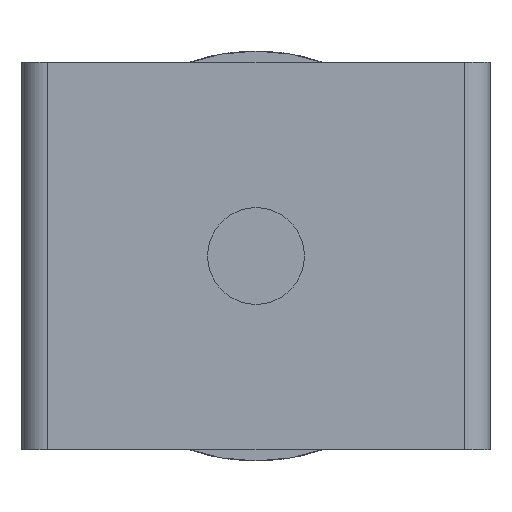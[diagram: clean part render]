
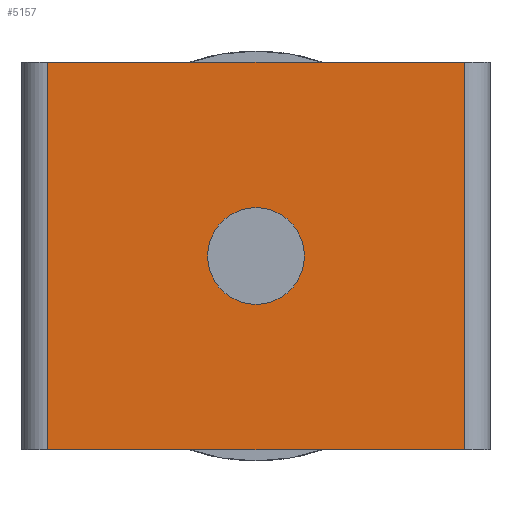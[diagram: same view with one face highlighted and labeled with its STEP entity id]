
A CAD part, front view. The second image highlights one B-rep face of the part: STEP entity #5157.
In plain terms, the highlighted planar face has unit normal (0, -1, 0).
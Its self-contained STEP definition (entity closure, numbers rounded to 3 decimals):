
#109 = EDGE_LOOP ( 'NONE', ( #2872, #2233, #1864, #2878 ) ) ;
#177 = AXIS2_PLACEMENT_3D ( 'NONE', #500, #3514, #933 ) ;
#316 = VERTEX_POINT ( 'NONE', #338 ) ;
#338 = CARTESIAN_POINT ( 'NONE',  ( 12.9, -37.5, -24. ) ) ;
#465 = CIRCLE ( 'NONE', #2472, 3. ) ;
#500 = CARTESIAN_POINT ( 'NONE',  ( 0., -37.5, -12. ) ) ;
#524 = VERTEX_POINT ( 'NONE', #2293 ) ;
#558 = CARTESIAN_POINT ( 'NONE',  ( 0., -37.5, -12. ) ) ;
#644 = FACE_BOUND ( 'NONE', #1712, .T. ) ;
#823 = DIRECTION ( 'NONE',  ( 0., 1., 0. ) ) ;
#871 = CARTESIAN_POINT ( 'NONE',  ( 12.9, -37.5, -12. ) ) ;
#883 = VERTEX_POINT ( 'NONE', #2236 ) ;
#933 = DIRECTION ( 'NONE',  ( 0., 0., 1. ) ) ;
#991 = DIRECTION ( 'NONE',  ( 0., 0., 1. ) ) ;
#1656 = CARTESIAN_POINT ( 'NONE',  ( 0., -37.5, -9. ) ) ;
#1678 = PLANE ( 'NONE',  #5049 ) ;
#1712 = EDGE_LOOP ( 'NONE', ( #5521, #4143 ) ) ;
#1864 = ORIENTED_EDGE ( 'NONE', *, *, #3978, .T. ) ;
#2080 = VERTEX_POINT ( 'NONE', #5199 ) ;
#2085 = EDGE_CURVE ( 'NONE', #2080, #4909, #4158, .T. ) ;
#2174 = EDGE_CURVE ( 'NONE', #4909, #2080, #465, .T. ) ;
#2224 = DIRECTION ( 'NONE',  ( -1., 0., 0. ) ) ;
#2233 = ORIENTED_EDGE ( 'NONE', *, *, #4381, .T. ) ;
#2236 = CARTESIAN_POINT ( 'NONE',  ( -12.9, -37.5, 0. ) ) ;
#2258 = VECTOR ( 'NONE', #2224, 1000. ) ;
#2293 = CARTESIAN_POINT ( 'NONE',  ( 12.9, -37.5, 0. ) ) ;
#2472 = AXIS2_PLACEMENT_3D ( 'NONE', #558, #3564, #991 ) ;
#2516 = VECTOR ( 'NONE', #2989, 1000. ) ;
#2529 = CARTESIAN_POINT ( 'NONE',  ( -12.9, -37.5, -24. ) ) ;
#2872 = ORIENTED_EDGE ( 'NONE', *, *, #4775, .T. ) ;
#2878 = ORIENTED_EDGE ( 'NONE', *, *, #5196, .T. ) ;
#2989 = DIRECTION ( 'NONE',  ( 0., 0., -1. ) ) ;
#3277 = VERTEX_POINT ( 'NONE', #5484 ) ;
#3337 = LINE ( 'NONE', #871, #4339 ) ;
#3420 = CARTESIAN_POINT ( 'NONE',  ( -12.9, -37.5, -12. ) ) ;
#3514 = DIRECTION ( 'NONE',  ( 0., -1., 0. ) ) ;
#3564 = DIRECTION ( 'NONE',  ( 0., -1., 0. ) ) ;
#3668 = LINE ( 'NONE', #3420, #2516 ) ;
#3790 = FACE_OUTER_BOUND ( 'NONE', #109, .T. ) ;
#3826 = DIRECTION ( 'NONE',  ( 0., 0., 1. ) ) ;
#3978 = EDGE_CURVE ( 'NONE', #524, #883, #5416, .T. ) ;
#4136 = LINE ( 'NONE', #4993, #5141 ) ;
#4143 = ORIENTED_EDGE ( 'NONE', *, *, #2085, .F. ) ;
#4158 = CIRCLE ( 'NONE', #177, 3. ) ;
#4339 = VECTOR ( 'NONE', #5129, 1000. ) ;
#4381 = EDGE_CURVE ( 'NONE', #316, #524, #3337, .T. ) ;
#4775 = EDGE_CURVE ( 'NONE', #3277, #316, #4136, .T. ) ;
#4909 = VERTEX_POINT ( 'NONE', #1656 ) ;
#4993 = CARTESIAN_POINT ( 'NONE',  ( 0., -37.5, -24. ) ) ;
#5049 = AXIS2_PLACEMENT_3D ( 'NONE', #2529, #823, #3826 ) ;
#5129 = DIRECTION ( 'NONE',  ( 0., 0., 1. ) ) ;
#5141 = VECTOR ( 'NONE', #5424, 1000. ) ;
#5157 = ADVANCED_FACE ( 'NONE', ( #644, #3790 ), #1678, .F. ) ;
#5196 = EDGE_CURVE ( 'NONE', #883, #3277, #3668, .T. ) ;
#5199 = CARTESIAN_POINT ( 'NONE',  ( 0., -37.5, -15. ) ) ;
#5228 = CARTESIAN_POINT ( 'NONE',  ( 0., -37.5, 0. ) ) ;
#5416 = LINE ( 'NONE', #5228, #2258 ) ;
#5424 = DIRECTION ( 'NONE',  ( 1., 0., 0. ) ) ;
#5484 = CARTESIAN_POINT ( 'NONE',  ( -12.9, -37.5, -24. ) ) ;
#5521 = ORIENTED_EDGE ( 'NONE', *, *, #2174, .F. ) ;
